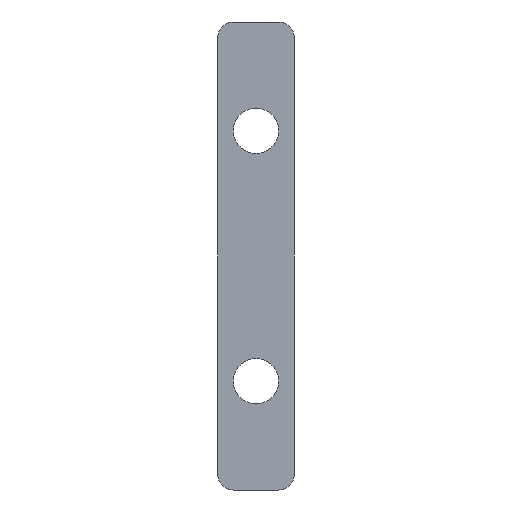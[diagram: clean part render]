
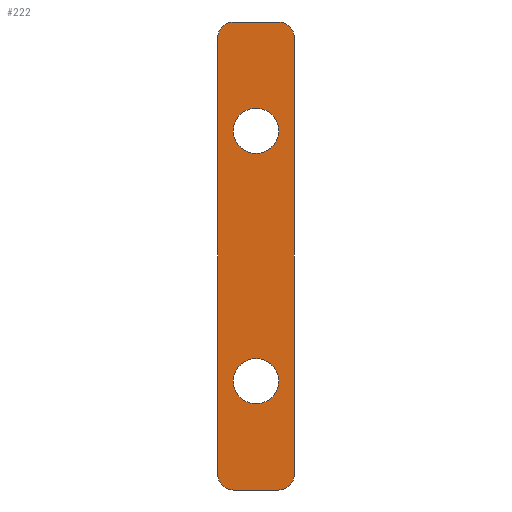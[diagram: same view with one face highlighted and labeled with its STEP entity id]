
A CAD part, left-side view. The second image highlights one B-rep face of the part: STEP entity #222.
In plain terms, the highlighted planar face has unit normal (-1, 0, 0).
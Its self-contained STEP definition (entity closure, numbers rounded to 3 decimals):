
#3 = EDGE_CURVE ( 'NONE', #352, #464, #344, .T. ) ;
#5 = DIRECTION ( 'NONE',  ( -1., 0., 0. ) ) ;
#13 = CARTESIAN_POINT ( 'NONE',  ( -592.5, 0., -13.1 ) ) ;
#14 = DIRECTION ( 'NONE',  ( 0., 0., -1. ) ) ;
#18 = VERTEX_POINT ( 'NONE', #489 ) ;
#26 = EDGE_CURVE ( 'NONE', #18, #196, #401, .T. ) ;
#35 = CARTESIAN_POINT ( 'NONE',  ( -592.5, 0., 16. ) ) ;
#42 = ORIENTED_EDGE ( 'NONE', *, *, #206, .F. ) ;
#44 = CARTESIAN_POINT ( 'NONE',  ( -592.5, 4.9, 29.9 ) ) ;
#47 = EDGE_CURVE ( 'NONE', #238, #342, #478, .T. ) ;
#49 = VERTEX_POINT ( 'NONE', #139 ) ;
#51 = CARTESIAN_POINT ( 'NONE',  ( -592.5, 4.9, -29.9 ) ) ;
#52 = AXIS2_PLACEMENT_3D ( 'NONE', #345, #93, #201 ) ;
#54 = DIRECTION ( 'NONE',  ( 0., -1., 0. ) ) ;
#56 = CARTESIAN_POINT ( 'NONE',  ( -592.5, -2.9, -29.9 ) ) ;
#67 = LINE ( 'NONE', #108, #347 ) ;
#72 = EDGE_CURVE ( 'NONE', #289, #315, #377, .T. ) ;
#74 = ORIENTED_EDGE ( 'NONE', *, *, #165, .T. ) ;
#81 = VECTOR ( 'NONE', #187, 1000. ) ;
#85 = AXIS2_PLACEMENT_3D ( 'NONE', #147, #480, #475 ) ;
#93 = DIRECTION ( 'NONE',  ( -1., 0., 0. ) ) ;
#94 = EDGE_CURVE ( 'NONE', #244, #159, #67, .T. ) ;
#98 = CARTESIAN_POINT ( 'NONE',  ( -592.5, -2.9, 27.9 ) ) ;
#108 = CARTESIAN_POINT ( 'NONE',  ( -592.5, 4.9, 29.9 ) ) ;
#111 = CARTESIAN_POINT ( 'NONE',  ( -592.5, 2.9, 27.9 ) ) ;
#115 = CARTESIAN_POINT ( 'NONE',  ( -592.5, -4.9, 29.9 ) ) ;
#128 = AXIS2_PLACEMENT_3D ( 'NONE', #441, #408, #385 ) ;
#131 = ORIENTED_EDGE ( 'NONE', *, *, #3, .F. ) ;
#137 = ORIENTED_EDGE ( 'NONE', *, *, #158, .T. ) ;
#138 = DIRECTION ( 'NONE',  ( -1., 0., 0. ) ) ;
#139 = CARTESIAN_POINT ( 'NONE',  ( -592.5, 0., -18.9 ) ) ;
#140 = DIRECTION ( 'NONE',  ( 0., 0., -1. ) ) ;
#143 = CIRCLE ( 'NONE', #227, 2. ) ;
#145 = EDGE_CURVE ( 'NONE', #485, #49, #162, .T. ) ;
#146 = DIRECTION ( 'NONE',  ( 0., 0., -1. ) ) ;
#147 = CARTESIAN_POINT ( 'NONE',  ( -592.5, 0., 16. ) ) ;
#149 = EDGE_CURVE ( 'NONE', #464, #352, #404, .T. ) ;
#151 = CARTESIAN_POINT ( 'NONE',  ( -592.5, 4.9, 27.9 ) ) ;
#153 = EDGE_CURVE ( 'NONE', #244, #315, #257, .T. ) ;
#154 = EDGE_LOOP ( 'NONE', ( #308, #330, #190, #137, #272, #74, #337, #285 ) ) ;
#155 = PLANE ( 'NONE',  #324 ) ;
#158 = EDGE_CURVE ( 'NONE', #289, #342, #329, .T. ) ;
#159 = VERTEX_POINT ( 'NONE', #151 ) ;
#161 = EDGE_LOOP ( 'NONE', ( #42, #223 ) ) ;
#162 = CIRCLE ( 'NONE', #52, 2.9 ) ;
#164 = AXIS2_PLACEMENT_3D ( 'NONE', #355, #325, #297 ) ;
#165 = EDGE_CURVE ( 'NONE', #238, #196, #484, .T. ) ;
#170 = EDGE_CURVE ( 'NONE', #18, #159, #143, .T. ) ;
#175 = DIRECTION ( 'NONE',  ( 0., 0., 1. ) ) ;
#176 = CARTESIAN_POINT ( 'NONE',  ( -592.5, -4.9, -27.9 ) ) ;
#180 = DIRECTION ( 'NONE',  ( 1., 0., 0. ) ) ;
#187 = DIRECTION ( 'NONE',  ( 0., 1., 0. ) ) ;
#190 = ORIENTED_EDGE ( 'NONE', *, *, #72, .F. ) ;
#194 = AXIS2_PLACEMENT_3D ( 'NONE', #98, #138, #140 ) ;
#196 = VERTEX_POINT ( 'NONE', #466 ) ;
#201 = DIRECTION ( 'NONE',  ( 0., 0., -1. ) ) ;
#206 = EDGE_CURVE ( 'NONE', #49, #485, #397, .T. ) ;
#218 = CARTESIAN_POINT ( 'NONE',  ( -592.5, 0., -16. ) ) ;
#222 = ADVANCED_FACE ( 'NONE', ( #314, #237, #472 ), #155, .F. ) ;
#223 = ORIENTED_EDGE ( 'NONE', *, *, #145, .F. ) ;
#227 = AXIS2_PLACEMENT_3D ( 'NONE', #111, #332, #381 ) ;
#236 = DIRECTION ( 'NONE',  ( -1., 0., 0. ) ) ;
#237 = FACE_BOUND ( 'NONE', #353, .T. ) ;
#238 = VERTEX_POINT ( 'NONE', #245 ) ;
#244 = VERTEX_POINT ( 'NONE', #446 ) ;
#245 = CARTESIAN_POINT ( 'NONE',  ( -592.5, -4.9, 27.9 ) ) ;
#255 = AXIS2_PLACEMENT_3D ( 'NONE', #35, #5, #14 ) ;
#257 = CIRCLE ( 'NONE', #128, 2. ) ;
#266 = AXIS2_PLACEMENT_3D ( 'NONE', #218, #236, #431 ) ;
#272 = ORIENTED_EDGE ( 'NONE', *, *, #47, .F. ) ;
#285 = ORIENTED_EDGE ( 'NONE', *, *, #170, .T. ) ;
#289 = VERTEX_POINT ( 'NONE', #56 ) ;
#297 = DIRECTION ( 'NONE',  ( 0., 0., -1. ) ) ;
#308 = ORIENTED_EDGE ( 'NONE', *, *, #94, .F. ) ;
#314 = FACE_BOUND ( 'NONE', #161, .T. ) ;
#315 = VERTEX_POINT ( 'NONE', #490 ) ;
#324 = AXIS2_PLACEMENT_3D ( 'NONE', #400, #180, #442 ) ;
#325 = DIRECTION ( 'NONE',  ( -1., 0., 0. ) ) ;
#326 = VECTOR ( 'NONE', #54, 1000. ) ;
#329 = CIRCLE ( 'NONE', #164, 2. ) ;
#330 = ORIENTED_EDGE ( 'NONE', *, *, #153, .T. ) ;
#332 = DIRECTION ( 'NONE',  ( -1., 0., 0. ) ) ;
#337 = ORIENTED_EDGE ( 'NONE', *, *, #26, .F. ) ;
#342 = VERTEX_POINT ( 'NONE', #176 ) ;
#344 = CIRCLE ( 'NONE', #255, 2.9 ) ;
#345 = CARTESIAN_POINT ( 'NONE',  ( -592.5, 0., -16. ) ) ;
#347 = VECTOR ( 'NONE', #175, 1000. ) ;
#352 = VERTEX_POINT ( 'NONE', #419 ) ;
#353 = EDGE_LOOP ( 'NONE', ( #131, #483 ) ) ;
#355 = CARTESIAN_POINT ( 'NONE',  ( -592.5, -2.9, -27.9 ) ) ;
#377 = LINE ( 'NONE', #51, #81 ) ;
#381 = DIRECTION ( 'NONE',  ( 0., 0., -1. ) ) ;
#385 = DIRECTION ( 'NONE',  ( 0., 0., -1. ) ) ;
#397 = CIRCLE ( 'NONE', #266, 2.9 ) ;
#400 = CARTESIAN_POINT ( 'NONE',  ( -592.5, 0., 0. ) ) ;
#401 = LINE ( 'NONE', #44, #326 ) ;
#404 = CIRCLE ( 'NONE', #85, 2.9 ) ;
#408 = DIRECTION ( 'NONE',  ( -1., 0., 0. ) ) ;
#419 = CARTESIAN_POINT ( 'NONE',  ( -592.5, 0., 13.1 ) ) ;
#431 = DIRECTION ( 'NONE',  ( 0., 0., -1. ) ) ;
#441 = CARTESIAN_POINT ( 'NONE',  ( -592.5, 2.9, -27.9 ) ) ;
#442 = DIRECTION ( 'NONE',  ( 0., 0., -1. ) ) ;
#446 = CARTESIAN_POINT ( 'NONE',  ( -592.5, 4.9, -27.9 ) ) ;
#460 = CARTESIAN_POINT ( 'NONE',  ( -592.5, 0., 18.9 ) ) ;
#464 = VERTEX_POINT ( 'NONE', #460 ) ;
#466 = CARTESIAN_POINT ( 'NONE',  ( -592.5, -2.9, 29.9 ) ) ;
#469 = VECTOR ( 'NONE', #146, 1000. ) ;
#472 = FACE_OUTER_BOUND ( 'NONE', #154, .T. ) ;
#475 = DIRECTION ( 'NONE',  ( 0., 0., -1. ) ) ;
#478 = LINE ( 'NONE', #115, #469 ) ;
#480 = DIRECTION ( 'NONE',  ( -1., 0., 0. ) ) ;
#483 = ORIENTED_EDGE ( 'NONE', *, *, #149, .F. ) ;
#484 = CIRCLE ( 'NONE', #194, 2. ) ;
#485 = VERTEX_POINT ( 'NONE', #13 ) ;
#489 = CARTESIAN_POINT ( 'NONE',  ( -592.5, 2.9, 29.9 ) ) ;
#490 = CARTESIAN_POINT ( 'NONE',  ( -592.5, 2.9, -29.9 ) ) ;
